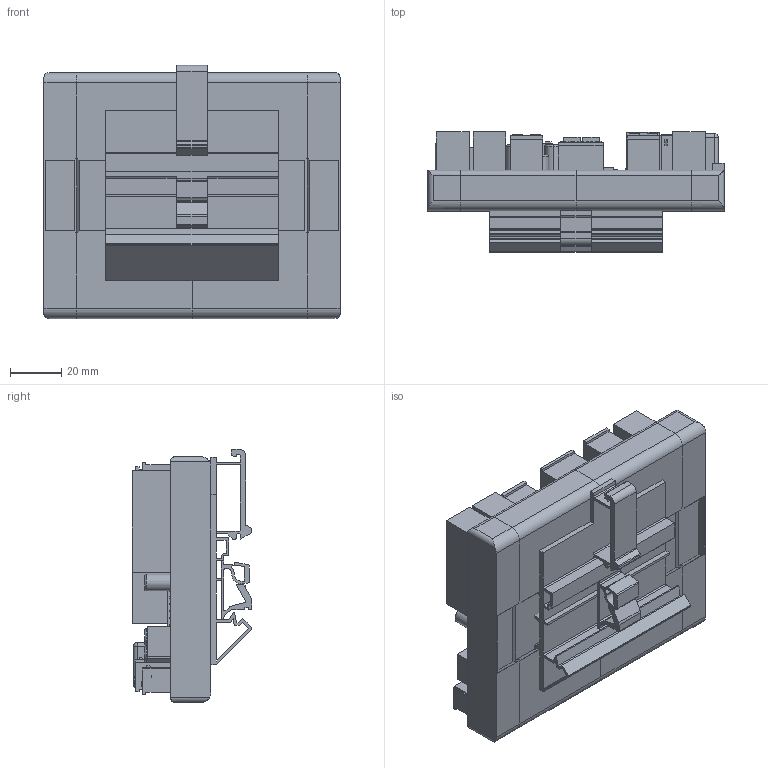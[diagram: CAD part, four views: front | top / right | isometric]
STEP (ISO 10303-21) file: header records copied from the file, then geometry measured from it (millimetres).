
FILE_DESCRIPTION (( 'STEP AP214' ), '1' );
FILE_NAME ('Z_PSU_LP.STEP', '2019-02-11T07:50:21', ( '' ), ( '' ), 'SwSTEP 2.0', 'SolidWorks 2017', '' );
FILE_SCHEMA (( 'AUTOMOTIVE_DESIGN' ));
Length unit declared in the file: millimetre
Products named in the file (1): Z_PSU_LP
Bounding box: 115.6 x 46.8 x 98.81 mm (x, y, z)
Surface area: 68361 mm2 (no closed solid volume)
Topology: 0 solids, 6 shells, 872 faces, 2597 edges, 1756 vertices
Faces by surface type: plane 667, cylinder 175, torus 26, sphere 4
Entity records: 38610 total; most frequent: CARTESIAN_POINT 5299, DIRECTION 4784, ORIENTED_EDGE 4768, EDGE_CURVE 2593, VECTOR 2130, LINE 2130, VERTEX_POINT 1756, AXIS2_PLACEMENT_3D 1327
